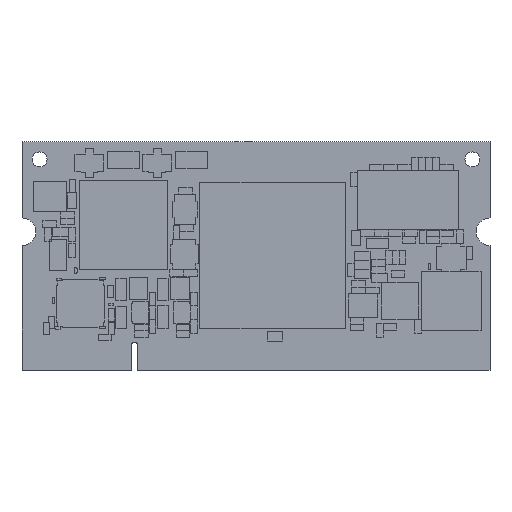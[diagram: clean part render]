
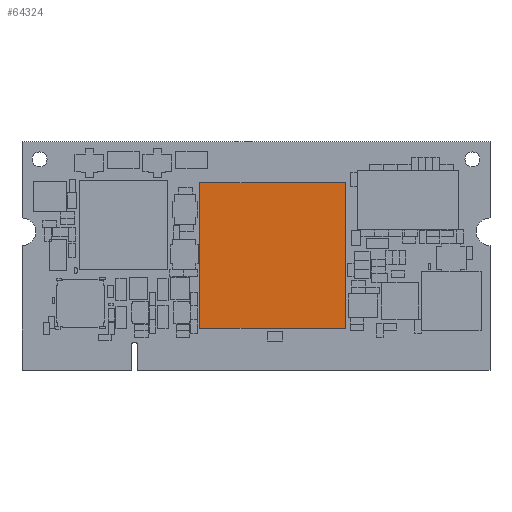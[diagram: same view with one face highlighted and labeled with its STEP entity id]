
A CAD part, top view. The second image highlights one B-rep face of the part: STEP entity #64324.
In plain terms, the highlighted planar face has unit normal (0, 0, 1).
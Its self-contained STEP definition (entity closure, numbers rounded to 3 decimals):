
#3132 = CARTESIAN_POINT ( 'NONE',  ( 53.895, 61.057, 3.16 ) ) ;
#4938 = CARTESIAN_POINT ( 'NONE',  ( 53.895, 40.057, 3.16 ) ) ;
#5472 = EDGE_CURVE ( 'NONE', #38711, #66800, #63334, .T. ) ;
#5532 = CARTESIAN_POINT ( 'NONE',  ( 32.895, 61.057, 3.16 ) ) ;
#7177 = FACE_OUTER_BOUND ( 'NONE', #24897, .T. ) ;
#9929 = EDGE_CURVE ( 'NONE', #15971, #38711, #52737, .T. ) ;
#11744 = CARTESIAN_POINT ( 'NONE',  ( 32.895, 61.057, 3.16 ) ) ;
#12448 = DIRECTION ( 'NONE',  ( -1., 0., 0. ) ) ;
#13116 = CARTESIAN_POINT ( 'NONE',  ( 53.895, 61.057, 3.16 ) ) ;
#13995 = DIRECTION ( 'NONE',  ( 1., 0., 0. ) ) ;
#14019 = DIRECTION ( 'NONE',  ( 0., 1., 0. ) ) ;
#15971 = VERTEX_POINT ( 'NONE', #30523 ) ;
#20004 = CARTESIAN_POINT ( 'NONE',  ( 53.895, 40.057, 3.16 ) ) ;
#22472 = CARTESIAN_POINT ( 'NONE',  ( 32.895, 40.057, 3.16 ) ) ;
#24897 = EDGE_LOOP ( 'NONE', ( #48172, #41698, #49844, #64580 ) ) ;
#26043 = EDGE_CURVE ( 'NONE', #66800, #34578, #65003, .T. ) ;
#29108 = LINE ( 'NONE', #22472, #49674 ) ;
#30523 = CARTESIAN_POINT ( 'NONE',  ( 32.895, 40.057, 3.16 ) ) ;
#33557 = CARTESIAN_POINT ( 'NONE',  ( 0., 0., 3.16 ) ) ;
#34578 = VERTEX_POINT ( 'NONE', #11744 ) ;
#34725 = DIRECTION ( 'NONE',  ( 0., -1., 0. ) ) ;
#37254 = EDGE_CURVE ( 'NONE', #34578, #15971, #29108, .T. ) ;
#37553 = DIRECTION ( 'NONE',  ( -1., 0., 0. ) ) ;
#38711 = VERTEX_POINT ( 'NONE', #4938 ) ;
#41698 = ORIENTED_EDGE ( 'NONE', *, *, #37254, .T. ) ;
#42269 = VECTOR ( 'NONE', #13995, 1000. ) ;
#48172 = ORIENTED_EDGE ( 'NONE', *, *, #26043, .T. ) ;
#49446 = DIRECTION ( 'NONE',  ( 0., 0., -1. ) ) ;
#49674 = VECTOR ( 'NONE', #34725, 1000. ) ;
#49844 = ORIENTED_EDGE ( 'NONE', *, *, #9929, .T. ) ;
#51660 = VECTOR ( 'NONE', #14019, 1000. ) ;
#52737 = LINE ( 'NONE', #20004, #42269 ) ;
#54232 = VECTOR ( 'NONE', #37553, 1000. ) ;
#54705 = PLANE ( 'NONE',  #64749 ) ;
#63334 = LINE ( 'NONE', #3132, #51660 ) ;
#64324 = ADVANCED_FACE ( 'NONE', ( #7177 ), #54705, .F. ) ;
#64580 = ORIENTED_EDGE ( 'NONE', *, *, #5472, .T. ) ;
#64749 = AXIS2_PLACEMENT_3D ( 'NONE', #33557, #49446, #12448 ) ;
#65003 = LINE ( 'NONE', #5532, #54232 ) ;
#66800 = VERTEX_POINT ( 'NONE', #13116 ) ;
